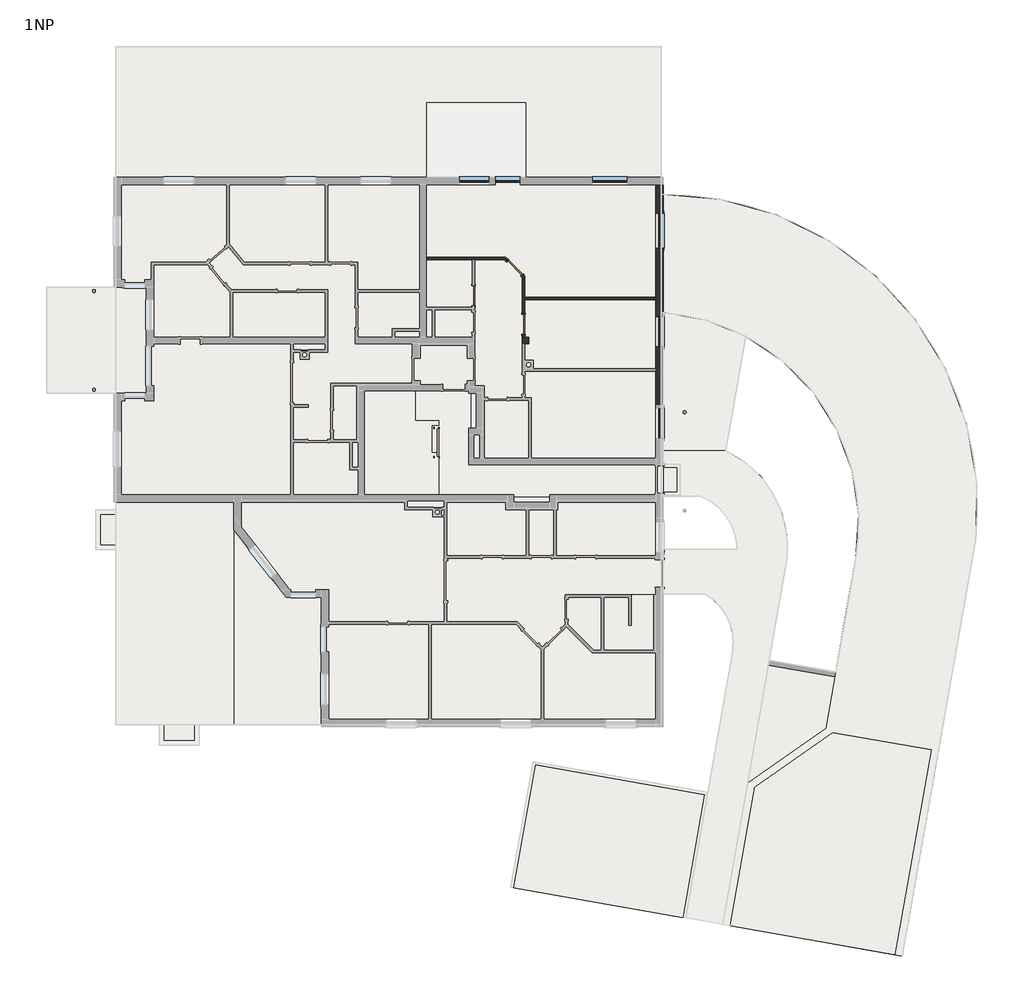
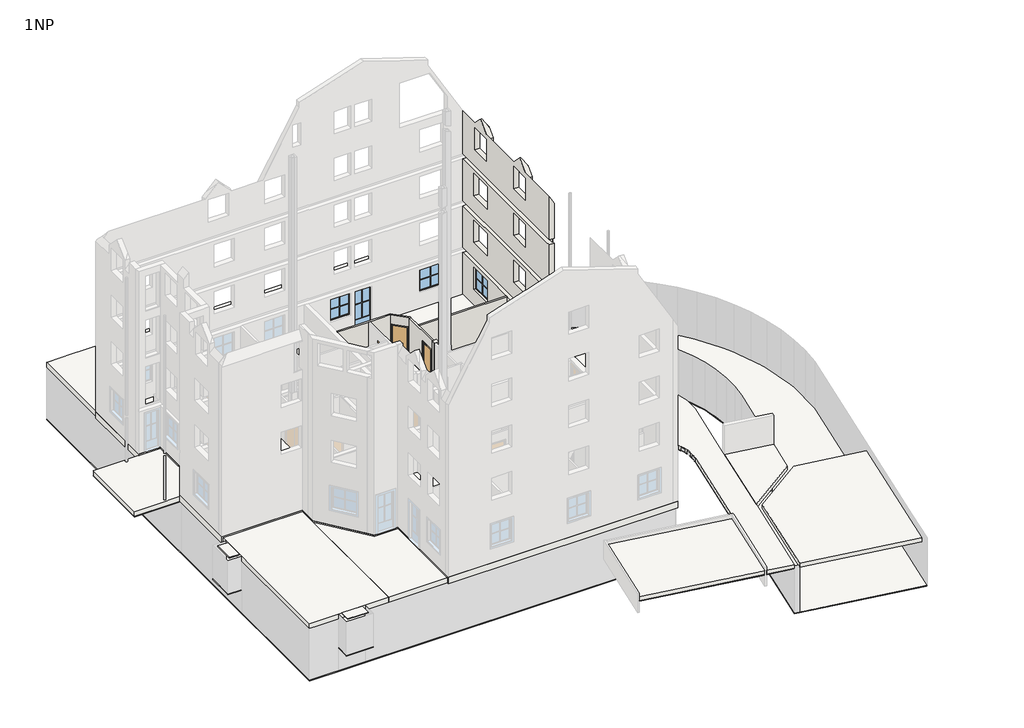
# One storey, part 6 of 7: 20 slabs, 6 walls, 6 windows, 3 doors.
"""IFC4 building model written with IfcOpenShell, lengths in millimetres."""

from ifc_helpers import new_model, si_unit, point, frame, frame_2d, origin, origin_with_axes, place, context, project, spatial, polyline, circle_curve, trimmed, segment, composite_curve, outline, extrude, faceted_brep, transform, mapped, element, save
from components import sd_800x2000_80f4ff25, standard_window_with_mullions_d3525f46, standard_window_with_mullions_80486b60, window_2_53780d15

model = new_model("IFC4")

# Units and contexts
model_context = context("Model", 3, world=origin())
ifc_project = project(units=[si_unit("LENGTHUNIT", "METRE", prefix="MILLI")], contexts=[model_context])

# Site, building, storey
site = spatial("IfcSite", under=ifc_project)
building = spatial("IfcBuilding", under=site)
storey = spatial("IfcBuildingStorey", under=building, Name="1NP", Elevation=0.0)

# Doors
placement = place(None, origin())
sd_800x2000_shape = sd_800x2000_80f4ff25(model_context)
element("IfcDoor", 1, ObjectType="JednokridlePlne : SD 800x2000", at=placement, inside=storey, context=model_context, shape_type="MappedRepresentation", body=[
    mapped(sd_800x2000_shape, transform((3762.8037835, 4988.8717038, 0.0), x_axis=(0.0, -1.0, 0.0), y_axis=(1.0, 0.0, 0.0), z_axis=(0.0, 0.0, 1.0))),
])
element("IfcDoor", 2, ObjectType="JednokridlePlne : SD 800x2000", at=placement, inside=storey, context=model_context, shape_type="MappedRepresentation", body=[
    mapped(sd_800x2000_shape, transform((3410.8458954, 7240.2976203, 0.0), x_axis=(0.7071067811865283, -0.7071067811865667, 0.0), y_axis=(0.7071067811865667, 0.7071067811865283, 0.0), z_axis=(0.0, 0.0, 1.0))),
])
element("IfcDoor", 3, ObjectType="JednokridlePlne : SD 800x2000", at=placement, inside=storey, context=model_context, shape_type="MappedRepresentation", body=[
    mapped(sd_800x2000_shape, transform((1762.8037835, 6127.9240135, 0.0), x_axis=(0.0, -1.0, 0.0), y_axis=(1.0, 0.0, 0.0), z_axis=(0.0, 0.0, 1.0))),
])

# Slabs
element("IfcSlab", 4, ObjectType="Asphalt Terrace", at=placement, inside=storey, context=model_context, shape_type="SweptSolid", body=[
    extrude(outline(composite_curve([segment(polyline([(9362.8037835, -70.8200492), (9362.8037835, 5459.9248888)]), True, "CONTINUOUS"), segment(trimmed(circle_curve(frame_2d((8700.9450523, -2993.1355038)), 8478.9319481), [point((9362.8037835, 5459.9248888))], [point((12661.1981728, 4504.1094704))], False, "CARTESIAN"), True, "CONTINUOUS"), segment(polyline([(12661.1981728, 4504.1094704), (11854.5146636, -70.8200492), (9362.8037835, -70.8200492)]), True, "CONTINUOUS")], self_intersect=False)), frame((0.0, 0.0, -270.0), z_axis=(0.0, 0.0, 1.0), x_axis=(1.0, 0.0, 0.0)), (0.0, 0.0, 1.0), 240.0),
])
element("IfcSlab", 5, ObjectType="Asphalt Terrace", at=placement, inside=storey, context=model_context, shape_type="SweptSolid", body=[
    extrude(outline(polyline([(18632.5053612, -20257.2831938), (12034.293416, -19093.8404034), (13012.1707018, -13548.0227304), (16140.0017147, -11357.8918769), (20079.2327267, -12052.4845876), (18632.5053612, -20257.2831938)])), frame((0.0, 0.0, -270.0), z_axis=(0.0, 0.0, 1.0), x_axis=(1.0, 0.0, 0.0)), (0.0, 0.0, 1.0), 240.0),
])
element("IfcSlab", 6, ObjectType="Asphalt Terrace", at=placement, inside=storey, context=model_context, shape_type="SweptSolid", body=[
    extrude(outline(polyline([(16227.9984371, -9131.2065199), (15866.1376178, -11183.4212053), (12738.306605, -13373.5520588), (13559.6689502, -8638.216614), (16227.9984371, -9131.2065199)])), frame((0.0, 0.0, -270.0), z_axis=(0.0, 0.0, 1.0), x_axis=(1.0, 0.0, 0.0)), (0.0, 0.0, 1.0), 240.0),
])
element("IfcSlab", 7, ObjectType="Asphalt Terrace", at=placement, inside=storey, context=model_context, shape_type="SweptSolid", body=[
    extrude(outline(polyline([(4222.6216392, -12641.6973909), (11017.7184639, -13839.8570811), (10149.4770917, -18763.8953703), (3354.380267, -17565.7356801), (4222.6216392, -12641.6973909)])), frame((0.0, 0.0, -270.0), z_axis=(0.0, 0.0, 1.0), x_axis=(1.0, 0.0, 0.0)), (0.0, 0.0, 1.0), 240.0),
])
element("IfcSlab", 8, ObjectType="Rollierung", at=placement, inside=storey, context=model_context, shape_type="SweptSolid", body=[
    extrude(outline(polyline([(9282.8088399, 16107.6290541), (9282.8088399, -11052.3709459), (-12557.1911601, -11052.3709459), (-12557.1911601, 16107.6290541), (9282.8088399, 16107.6290541)])), frame((0.0, 0.0, -3720.0), z_axis=(0.0, 0.0, 1.0), x_axis=(1.0, 0.0, 0.0)), (0.0, 0.0, 1.0), 40.0),
])
element("IfcSlab", 9, ObjectType="Rollierung", at=placement, inside=storey, context=model_context, shape_type="SweptSolid", body=[
    extrude(outline(polyline([(-9223.5911601, -11872.3709459), (-10823.5911601, -11872.3709459), (-10823.5911601, -11052.3709459), (-9223.5911601, -11052.3709459), (-9223.5911601, -11872.3709459)])), frame((0.0, 0.0, -2260.0), z_axis=(0.0, 0.0, 1.0), x_axis=(1.0, 0.0, 0.0)), (0.0, 0.0, 1.0), 40.0),
])
element("IfcSlab", 10, ObjectType="Rollierung", at=placement, inside=storey, context=model_context, shape_type="SweptSolid", body=[
    extrude(outline(polyline([(-12557.1911601, -2432.3709459), (-12557.1911601, -4032.3709459), (-13363.5911601, -4032.3709459), (-13363.5911601, -2432.3709459), (-12557.1911601, -2432.3709459)])), frame((0.0, 0.0, -2260.0), z_axis=(0.0, 0.0, 1.0), x_axis=(1.0, 0.0, 0.0)), (0.0, 0.0, 1.0), 40.0),
])
element("IfcSlab", 11, ObjectType="Rollierung", at=placement, inside=storey, context=model_context, shape_type="SweptSolid", body=[
    extrude(outline(polyline([(-12557.1911601, 6467.6290541), (-12557.1911601, 2217.6290541), (-15337.1962165, 2217.6290541), (-15337.1962165, 6467.6290541), (-12557.1911601, 6467.6290541)])), frame((0.0, 0.0, -449.0), z_axis=(0.0, 0.0, 1.0), x_axis=(1.0, 0.0, 0.0)), (0.0, 0.0, 1.0), 40.0),
])
element("IfcSlab", 12, ObjectType="Rollierung", at=placement, inside=storey, context=model_context, shape_type="SweptSolid", body=[
    extrude(outline(composite_curve([segment(polyline([(18927.9476871, -20309.3776471), (11738.8510901, -19041.7459501), (12738.306605, -13373.5520589), (13590.5523257, -8463.068288), (16262.7280726, -8934.2449693), (17064.3928143, -4387.7782943)]), True, "CONTINUOUS"), segment(trimmed(circle_curve(frame_2d((8700.9450523, -2993.1355038)), 8478.9319481), [point((17064.3928143, -4387.7782943))], [point((9282.8088399, 5465.8077821))], True, "CARTESIAN"), True, "CONTINUOUS"), segment(polyline([(9282.8088399, 5465.8077821), (9282.8088399, 10201.4215084)]), True, "CONTINUOUS"), segment(trimmed(circle_curve(frame_2d((9387.6836517, -2344.9016522)), 12546.7614777), [point((9282.8088399, 10201.4215084))], [point((21867.7334693, -3637.023987))], False, "CARTESIAN"), True, "CONTINUOUS"), segment(polyline([(21867.7334693, -3637.023987), (18927.9476871, -20309.3776471)]), True, "CONTINUOUS")], self_intersect=False)), frame((0.0, 0.0, -3140.0), z_axis=(0.0, 0.0, 1.0), x_axis=(1.0, 0.0, 0.0)), (0.0, 0.0, 1.0), 40.0),
])
element("IfcSlab", 13, ObjectType="Rollierung", at=placement, inside=storey, context=model_context, shape_type="SweptSolid", body=[
    extrude(outline(composite_curve([segment(polyline([(14317.3577769, -4341.1497463), (13590.5523257, -8463.068288), (12738.306605, -13373.5520589), (11738.8510901, -19041.7459501), (10248.0344041, -18781.2736836), (12113.1585693, -8203.6289143)]), True, "CONTINUOUS"), segment(trimmed(circle_curve(frame_2d((9933.4041595, -7751.3383061)), 2226.1841976), [point((12113.1585693, -8203.6289143))], [point((11031.0911178, -5814.5937635))], True, "CARTESIAN"), True, "CONTINUOUS"), segment(polyline([(11031.0911178, -5814.5937635), (9362.8037835, -5814.5937635), (9362.8037835, -4014.5937635), (12309.6434247, -4014.5937635)]), True, "CONTINUOUS"), segment(trimmed(circle_curve(frame_2d((10005.2079734, -4047.5225166)), 2304.6707036), [point((12309.6434247, -4014.5937635))], [point((10834.5744311, -1897.2531542))], True, "CARTESIAN"), True, "CONTINUOUS"), segment(polyline([(10834.5744311, -1897.2531542), (9362.8037835, -1897.2531542), (9362.8037835, -1852.3709459), (10036.4088399, -1852.3709459), (10036.4088399, -612.3709455), (9362.8037835, -612.370948), (9362.8037835, 5449.8942464)]), True, "CONTINUOUS"), segment(trimmed(circle_curve(frame_2d((8700.9450523, -2993.1355038)), 8468.9319481), [point((9362.8037835, 5449.8942464))], [point((12659.3738206, 4493.7630549))], False, "CARTESIAN"), True, "CONTINUOUS"), segment(polyline([(12659.3738206, 4493.7630549), (11854.5146636, -70.8200492)]), True, "CONTINUOUS"), segment(trimmed(circle_curve(frame_2d((10067.8637635, -3946.6090398)), 4267.7701132), [point((11854.5146636, -70.8200492))], [point((14317.3577769, -4341.1497463))], False, "CARTESIAN"), True, "CONTINUOUS")], self_intersect=False)), frame((0.0, 0.0, -310.0), z_axis=(0.0, 0.0, 1.0), x_axis=(1.0, 0.0, 0.0)), (0.0, 0.0, 1.0), 40.0),
])
element("IfcSlab", 14, ObjectType="Rollierung", at=placement, inside=storey, context=model_context, shape_type="SweptSolid", body=[
    extrude(outline(polyline([(4222.621572, -12641.697772), (11017.7185291, -13839.856702), (10149.5536288, -18763.9088659), (3354.380267, -17565.7356801), (4222.621572, -12641.697772)])), frame((0.0, 0.0, -310.0), z_axis=(0.0, 0.0, 1.0), x_axis=(1.0, 0.0, 0.0)), (0.0, 0.0, 1.0), 40.0),
])
element("IfcSlab", 15, ObjectType="STB240 + 160", at=placement, inside=storey, context=model_context, shape_type="Brep", body=[
    faceted_brep([(9362.8037835, 10867.6290541, -400.0), (9362.8037835, -11132.3709459, -400.0), (-4337.1962165, -11132.3709459, -400.0), (-4337.1962165, -11052.3709459, -400.0), (-4337.1962165, -5932.3709459, -400.0), (-5737.1962165, -5932.3709459, -400.0), (-7837.1962165, -3232.3709459, -400.0), (-7837.1962165, -2132.3709459, -400.0), (-12637.1962165, -2132.3709459, -400.0), (-12637.1962165, 2217.6290541, -400.0), (-12557.1911601, 2217.6290541, -400.0), (-12257.1911601, 2217.6290541, -400.0), (-11337.1962165, 2217.6290541, -400.0), (-11337.1962165, 6467.6290541, -400.0), (-12257.1911601, 6467.6290541, -400.0), (-12557.1911601, 6467.6290541, -400.0), (-12637.1962165, 6467.6290541, -400.0), (-12637.1962165, 10867.6290541, -400.0), (-582.1962165, 1117.6290541, -400.0), (-582.1962165, 2317.6290541, -400.0), (-2607.1962165, 2317.6290541, -400.0), (-2607.1962165, -1832.3709459, -400.0), (362.8037835, -1832.3709459, -400.0), (362.8037835, -162.3709459, -400.0), (87.8037835, -162.3709459, -400.0), (87.8037835, 947.6290541, -400.0), (192.8037835, 947.6290541, -400.0), (362.8037835, 947.6290541, -400.0), (362.8037835, 1117.6290541, -400.0), (-2857.1962165, 267.6290541, -400.0), (-3107.1962165, 267.6290541, -400.0), (-3107.1962165, -732.3709459, -400.0), (-2857.1962165, -732.3709459, -400.0), (592.8037835, -2082.3709459, -400.0), (-886.4381272, -2082.3709459, -400.0), (-886.4381272, -2332.3709459, -400.0), (592.8037835, -2332.3709459, -400.0), (2012.8037835, 567.6290541, -400.0), (1762.8088399, 567.6290541, -400.0), (1762.8088399, -382.3709459, -400.0), (2012.8037835, -382.3709459, -400.0), (112.8037835, 5567.6290541, -400.0), (-137.1962165, 5567.6290541, -400.0), (-137.1962165, 4467.6290541, -400.0), (112.8037835, 4467.6290541, -400.0), (-1387.1962165, 4467.6290541, -400.0), (-387.1962165, 4467.6290541, -400.0), (-387.1962165, 4717.6290541, -400.0), (-1387.1962165, 4717.6290541, -400.0), (-4187.1962165, 3967.6290541, -400.0), (-4187.1962165, 4217.6290541, -400.0), (-5457.1962165, 4217.6290541, -400.0), (-5457.1962165, 3967.6290541, -400.0), (4812.8037835, -1932.3709459, -400.0), (3362.8037835, -1932.3709459, -400.0), (3362.8037835, -2132.3709459, -400.0), (4812.8037835, -2132.3709459, -400.0), (1662.8088399, 2217.6290541, -400.0), (1662.8088399, 817.6290541, -400.0), (1862.8037835, 817.6290541, -400.0), (1862.8037835, 2217.6290541, -400.0), (6976.4088399, -5832.3709459, -400.0), (6976.4088399, -8052.3709459, -400.0), (8982.8088399, -8052.3709459, -400.0), (8982.8088399, -5832.3709459, -400.0), (9362.8037835, -11132.3709459, 0.0), (9362.8037835, 10567.6290541, 0.0), (9362.8037835, 10867.6290541, 0.0), (3637.8037835, 10867.6290541, 0.0), (2637.8037835, 10867.6290541, 0.0), (-12337.1962165, 10867.6290541, 0.0), (-12637.1962165, 10867.6290541, 0.0), (-12637.1962165, 6467.6290541, 0.0), (-11337.1962165, 6467.6290541, 0.0), (-11337.1962165, 2217.6290541, 0.0), (-12637.1962165, 2217.6290541, 0.0), (-12637.1962165, -2132.3709459, 0.0), (-7837.1962165, -2132.3709459, 0.0), (-7837.1962165, -3232.3709459, 0.0), (-5737.1962165, -5932.3709459, 0.0), (-4337.1962165, -5932.3709459, 0.0), (-4337.1962165, -7132.3709422, 0.0), (-4337.1962165, -8132.3709422, 0.0), (-4337.1962165, -10832.3709459, 0.0), (-4337.1962165, -11132.3709459, 0.0), (-582.1962165, 2317.6290541, 0.0), (-582.1962165, 1117.6290541, 0.0), (362.8037835, 1117.6290541, 0.0), (362.8037835, 947.6290541, 0.0), (192.8037835, 947.6290541, 0.0), (87.8037835, 947.6290541, 0.0), (87.8037835, -162.3709459, 0.0), (192.8037835, -162.3709459, 0.0), (362.8037835, -162.3709459, 0.0), (362.8037835, -299.8709459, 0.0), (362.8037835, -1832.3709459, 0.0), (-2607.1962165, -1832.3709459, 0.0), (-2607.1962165, 2317.6290541, 0.0), (-3107.1962165, 267.6290541, 0.0), (-2857.1962165, 267.6290541, 0.0), (-2857.1962165, -732.3709459, 0.0), (-3107.1962165, -732.3709459, 0.0), (-886.4381272, -2082.3709459, 0.0), (592.8037835, -2082.3709459, 0.0), (592.8037835, -2332.3709459, 0.0), (-886.4381272, -2332.3709459, 0.0), (1762.8088399, 567.6290541, 0.0), (2012.8037835, 567.6290541, 0.0), (2012.8037835, -382.3709459, 0.0), (1762.8088399, -382.3709459, 0.0), (-137.1962165, 5567.6290541, 0.0), (112.8037835, 5567.6290541, 0.0), (112.8037835, 4467.6290541, 0.0), (-137.1962165, 4467.6290541, 0.0), (-387.1962165, 4467.6290541, 0.0), (-1387.1962165, 4467.6290541, 0.0), (-1387.1962165, 4717.6290541, 0.0), (-387.1962165, 4717.6290541, 0.0), (-4187.1962165, 4217.6290541, 0.0), (-4187.1962165, 3967.6290541, 0.0), (-5457.1962165, 3967.6290541, 0.0), (-5457.1962165, 4217.6290541, 0.0), (3362.8037835, -1932.3709459, 0.0), (4812.8037835, -1932.3709459, 0.0), (4812.8037835, -2132.3709459, 0.0), (3362.8037835, -2132.3709459, 0.0), (1662.8088399, 817.6290541, 0.0), (1662.8088399, 2217.6290541, 0.0), (1762.8088399, 2217.6290541, 0.0), (1862.8037835, 2217.6290541, 0.0), (1862.8037835, 817.6290541, 0.0), (1762.8088399, 817.6290541, 0.0), (6976.4088399, -8052.3709459, 0.0), (6976.4088399, -5832.3709459, 0.0), (8982.8088399, -5832.3709459, 0.0), (8982.8088399, -8052.3709459, 0.0), (-4337.1962165, -5932.3709459, -91.0), (-5737.1962165, -5932.3709459, -91.0), (-7837.1962165, -3232.3709459, -91.0), (-12637.1962165, 2217.6290541, -100.0), (-11337.1962165, 2217.6290541, -100.0), (-11337.1962165, 6467.6290541, -100.0), (-12637.1962165, 6467.6290541, -100.0)], [[[0, 1, 2, 3, 4, 5, 6, 7, 8, 9, 10, 11, 12, 13, 14, 15, 16, 17], [18, 19, 20, 21, 22, 23, 24, 25, 26, 27, 28], [29, 30, 31, 32], [33, 34, 35, 36], [37, 38, 39, 40], [41, 42, 43, 44], [45, 46, 47, 48], [49, 50, 51, 52], [53, 54, 55, 56], [57, 58, 59, 60], [61, 62, 63, 64]], [[65, 66, 67, 68, 69, 70, 71, 72, 73, 74, 75, 76, 77, 78, 79, 80, 81, 82, 83, 84], [85, 86, 87, 88, 89, 90, 91, 92, 93, 94, 95, 96, 97], [98, 99, 100, 101], [102, 103, 104, 105], [106, 107, 108, 109], [110, 111, 112, 113], [114, 115, 116, 117], [118, 119, 120, 121], [122, 123, 124, 125], [126, 127, 128, 129, 130, 131], [132, 133, 134, 135]], [[1, 0, 67, 66, 65]], [[2, 1, 65, 84]], [[84, 83, 82, 81, 80, 136, 4, 3, 2]], [[5, 4, 136, 80, 79, 137]], [[6, 5, 137, 79, 78, 138]], [[7, 6, 138, 78, 77]], [[8, 7, 77, 76]], [[9, 8, 76, 75, 139]], [[12, 11, 10, 9, 139, 75, 74, 140]], [[13, 12, 140, 74, 73, 141]], [[16, 15, 14, 13, 141, 73, 72, 142]], [[17, 16, 142, 72, 71]], [[0, 17, 71, 70, 69, 68, 67]], [[19, 18, 86, 85]], [[20, 19, 85, 97]], [[21, 20, 97, 96]], [[22, 21, 96, 95]], [[23, 22, 95, 94, 93]], [[24, 23, 93, 92, 91]], [[25, 24, 91, 90]], [[27, 26, 25, 90, 89, 88]], [[28, 27, 88, 87]], [[18, 28, 87, 86]], [[30, 29, 99, 98]], [[31, 30, 98, 101]], [[32, 31, 101, 100]], [[29, 32, 100, 99]], [[34, 33, 103, 102]], [[35, 34, 102, 105]], [[36, 35, 105, 104]], [[33, 36, 104, 103]], [[38, 37, 107, 106]], [[39, 38, 106, 109]], [[40, 39, 109, 108]], [[37, 40, 108, 107]], [[42, 41, 111, 110]], [[43, 42, 110, 113]], [[44, 43, 113, 112]], [[41, 44, 112, 111]], [[46, 45, 115, 114]], [[47, 46, 114, 117]], [[48, 47, 117, 116]], [[45, 48, 116, 115]], [[50, 49, 119, 118]], [[51, 50, 118, 121]], [[52, 51, 121, 120]], [[49, 52, 120, 119]], [[54, 53, 123, 122]], [[55, 54, 122, 125]], [[56, 55, 125, 124]], [[53, 56, 124, 123]], [[58, 57, 127, 126]], [[59, 58, 126, 131, 130]], [[60, 59, 130, 129]], [[57, 60, 129, 128, 127]], [[62, 61, 133, 132]], [[63, 62, 132, 135]], [[64, 63, 135, 134]], [[61, 64, 134, 133]]]),
])
element("IfcSlab", 16, ObjectType="STB240 + 60 Grass", at=placement, inside=storey, context=model_context, shape_type="Brep", body=[
    faceted_brep([(-12557.1911601, 16107.6290541, -409.0), (-12257.1911601, 16107.6290541, -409.0), (9282.8088399, 16107.6290541, -409.0), (9282.8088399, 15807.6290541, -409.0), (9282.8088399, 10867.6290541, -409.0), (3862.8037835, 10867.6290541, -409.0), (3862.8037835, 13867.6290541, -409.0), (-137.1962165, 13867.6290541, -409.0), (-137.1962165, 10867.6290541, -409.0), (-12557.1911601, 10867.6290541, -409.0), (9282.8088399, 16107.6290541, -100.0), (-12557.1911601, 16107.6290541, -100.0), (-12557.1911601, 10867.6290541, -100.0), (-137.1962165, 10867.6290541, -100.0), (-137.1962165, 13867.6290541, -100.0), (3862.8037835, 13867.6290541, -100.0), (3862.8037835, 10867.6290541, -100.0), (9282.8088399, 10867.6290541, -100.0), (9282.8088399, 10867.6290541, -400.0), (3862.8037835, 10867.6290541, -400.0), (-137.1962165, 10867.6290541, -400.0), (-12557.1911601, 10867.6290541, -400.0)], [[[0, 1, 2, 3, 4, 5, 6, 7, 8, 9]], [[10, 11, 12, 13, 14, 15, 16, 17]], [[2, 1, 0, 11, 10]], [[4, 3, 2, 10, 17, 18]], [[5, 4, 18, 17, 16, 19]], [[6, 5, 19, 16, 15]], [[7, 6, 15, 14]], [[8, 7, 14, 13, 20]], [[9, 8, 20, 13, 12, 21]], [[0, 9, 21, 12, 11]]]),
])
element("IfcSlab", 17, ObjectType="STB240 + 60 Grass", at=placement, inside=storey, context=model_context, shape_type="Brep", body=[
    faceted_brep([(-7837.1962165, -11052.3709459, -400.0), (-12257.1911601, -11052.3709459, -400.0), (-12557.1911601, -11052.3709459, -400.0), (-12557.1911601, -2132.3709459, -400.0), (-7837.1962165, -2132.3709459, -400.0), (-7837.1962165, -3232.3709459, -400.0), (-12557.1911601, -11052.3709459, -91.0), (-7837.1962165, -11052.3709459, -91.0), (-7837.1962165, -3232.3709459, -91.0), (-7837.1962165, -2132.3709459, -91.0), (-12557.1911601, -2132.3709459, -91.0)], [[[0, 1, 2, 3, 4, 5]], [[6, 7, 8, 9, 10]], [[7, 0, 5, 4, 9, 8]], [[2, 1, 0, 7, 6]], [[3, 2, 6, 10]], [[4, 3, 10, 9]]]),
])
element("IfcSlab", 18, ObjectType="STB240 + 60 Terrace", at=placement, inside=storey, context=model_context, shape_type="SweptSolid", body=[
    extrude(outline(polyline([(-7837.1962165, -11052.3709459), (-7837.1962165, -3232.3709459), (-5737.1962165, -5932.3709459), (-4337.1962165, -5932.3709459), (-4337.1962165, -11052.3709459), (-7837.1962165, -11052.3709459)])), frame((0.0, 0.0, -400.0), z_axis=(0.0, 0.0, 1.0), x_axis=(1.0, 0.0, 0.0)), (0.0, 0.0, 1.0), 309.0),
])
element("IfcSlab", 19, ObjectType="STB240 + 60 Terrace", at=placement, inside=storey, context=model_context, shape_type="SweptSolid", body=[
    extrude(outline(polyline([(-15337.1962165, 2217.6290541), (-15337.1962165, 6467.6290541), (-11337.1962165, 6467.6290541), (-11337.1962165, 2217.6290541), (-15337.1962165, 2217.6290541)])), frame((0.0, 0.0, -409.0), z_axis=(0.0, 0.0, 1.0), x_axis=(1.0, 0.0, 0.0)), (0.0, 0.0, 1.0), 309.0),
])
element("IfcSlab", 20, ObjectType="Standards 400mm", at=placement, inside=storey, context=model_context, shape_type="SweptSolid", body=[
    extrude(outline(polyline([(9916.4088399, -1732.3709459), (9362.8037835, -1732.3709459), (9362.8037835, -732.3709459), (9916.4088399, -732.3709459), (9916.4088399, -1732.3709459)])), frame((0.0, 0.0, -70.0), z_axis=(0.0, 0.0, 1.0), x_axis=(1.0, 0.0, 0.0)), (0.0, 0.0, 1.0), 40.0),
])
element("IfcSlab", 21, ObjectType="Standards 400mm", at=placement, inside=storey, context=model_context, shape_type="SweptSolid", body=[
    extrude(outline(polyline([(-9423.5911601, -11672.3709459), (-10623.5911601, -11672.3709459), (-10623.5911601, -11052.3709459), (-9423.5911601, -11052.3709459), (-9423.5911601, -11672.3709459)])), frame((0.0, 0.0, -131.0), z_axis=(0.0, 0.0, 1.0), x_axis=(1.0, 0.0, 0.0)), (0.0, 0.0, 1.0), 40.0),
])
element("IfcSlab", 22, ObjectType="Standards 400mm", at=placement, inside=storey, context=model_context, shape_type="SweptSolid", body=[
    extrude(outline(polyline([(-12557.1911601, -2632.3709459), (-12557.1911601, -3832.3709459), (-13163.5911601, -3832.3709459), (-13163.5911601, -2632.3709459), (-12557.1911601, -2632.3709459)])), frame((0.0, 0.0, -131.0), z_axis=(0.0, 0.0, 1.0), x_axis=(1.0, 0.0, 0.0)), (0.0, 0.0, 1.0), 40.0),
])
element("IfcSlab", 23, ObjectType="Terrace", at=placement, inside=storey, context=model_context, shape_type="SweptSolid", body=[
    extrude(outline(composite_curve([segment(polyline([(10834.5744311, -1897.2531542), (9362.8037835, -1897.2531542), (9362.8037835, -1732.3709459), (9916.4088399, -1732.3709459), (9916.4088399, -732.3709459), (9362.8037835, -732.370948), (9362.8037835, -70.8200492), (11854.5146636, -70.8200492)]), True, "CONTINUOUS"), segment(trimmed(circle_curve(frame_2d((10067.8637635, -3946.6090398)), 4267.7701132), [point((11854.5146636, -70.8200492))], [point((14317.3577769, -4341.1497463))], False, "CARTESIAN"), True, "CONTINUOUS"), segment(polyline([(14317.3577769, -4341.1497463), (13590.5523257, -8463.068288), (13555.7944523, -8651.1968023), (12738.306605, -13373.5520589), (11738.8510901, -19041.7459501), (10248.0344041, -18781.2736836), (12113.1585693, -8203.6289143)]), True, "CONTINUOUS"), segment(trimmed(circle_curve(frame_2d((9933.4041595, -7751.3383061)), 2226.1841976), [point((12113.1585693, -8203.6289143))], [point((11031.0911178, -5814.5937635))], True, "CARTESIAN"), True, "CONTINUOUS"), segment(polyline([(11031.0911178, -5814.5937635), (9362.8037835, -5814.5937635), (9362.8037835, -4014.5937635), (12309.6434247, -4014.5937635)]), True, "CONTINUOUS"), segment(trimmed(circle_curve(frame_2d((10005.2079734, -4047.5225166)), 2304.6707036), [point((12309.6434247, -4014.5937635))], [point((10834.5744311, -1897.2531542))], True, "CARTESIAN"), True, "CONTINUOUS")], self_intersect=False)), frame((0.0, 0.0, -270.0), z_axis=(0.0, 0.0, 1.0), x_axis=(1.0, 0.0, 0.0)), (0.0, 0.0, 1.0), 240.0),
])

# Walls
element("IfcWall", 24, ObjectType="Exterior - 250+50mm", at=placement, inside=storey, context=model_context, shape_type="Brep", body=[
    faceted_brep([(9062.8037835, 10567.6290541, 0.0), (9062.8037835, 6067.6290541, 0.0), (9062.8037835, 5967.6290541, 0.0), (9062.8037835, 3216.2076978, 0.0), (9062.8037835, 3116.2076978, 0.0), (9062.8037835, 1767.6290541, 0.0), (9062.8037835, 1767.6290541, 2630.0), (9062.8037835, 3116.2076978, 2630.0), (9062.8037835, 3216.2076978, 2630.0), (9062.8037835, 5967.6290541, 2630.0), (9062.8037835, 6067.6290541, 2630.0), (9062.8037835, 10567.6290541, 2630.0), (9062.8037835, 9425.6927772, 1000.0), (9062.8037835, 9425.6927772, 2400.0), (9062.8037835, 8025.6927772, 2400.0), (9062.8037835, 8025.6927772, 1000.0), (9062.8037835, 5288.4530256, 1000.0), (9062.8037835, 5288.4530256, 2400.0), (9062.8037835, 4088.4530256, 2400.0), (9062.8037835, 4088.4530256, 1000.0), (9062.8037835, 9525.6927772, 11562.4355653), (9062.8037835, 10567.6290541, 11562.4355653), (9062.8037835, 10567.6290541, 8850.0), (9062.8037835, 6067.6290541, 8850.0), (9062.8037835, 5967.6290541, 8850.0), (9062.8037835, 3216.2076978, 8850.0), (9062.8037835, 3116.2076978, 8850.0), (9062.8037835, 1917.6290541, 8850.0), (9062.8037835, 1617.6290541, 8850.0), (9062.8037835, 1617.6290541, 11480.0), (9062.8037835, 1617.6290541, 11562.4355653), (9062.8037835, 3888.4530256, 11562.4355653), (9062.8037835, 4100.8885909, 11562.4355653), (9062.8037835, 4688.4530256, 12150.0), (9062.8037835, 4820.8885909, 12017.5644347), (9062.8037835, 5276.0174603, 11562.4355653), (9062.8037835, 5488.4530256, 11562.4355653), (9062.8037835, 7925.6927772, 11562.4355653), (9062.8037835, 8138.1283425, 11562.4355653), (9062.8037835, 8725.6927772, 12150.0), (9062.8037835, 8858.1283425, 12017.5644347), (9062.8037835, 9313.2572119, 11562.4355653), (9062.8037835, 9325.6927772, 9850.0), (9062.8037835, 9325.6927772, 11250.0), (9062.8037835, 8125.6927772, 11250.0), (9062.8037835, 8125.6927772, 9850.0), (9062.8037835, 5288.4530256, 9850.0), (9062.8037835, 5288.4530256, 11250.0), (9062.8037835, 4088.4530256, 11250.0), (9062.8037835, 4088.4530256, 9850.0), (9062.8037835, 10567.6290541, 2950.0), (9062.8037835, 6067.6290541, 2950.0), (9062.8037835, 5967.6290541, 2950.0), (9062.8037835, 3216.2076978, 2950.0), (9062.8037835, 3116.2076978, 2950.0), (9062.8037835, 1917.6290541, 2950.0), (9062.8037835, 1617.6290541, 2950.0), (9062.8037835, 1617.6290541, 5580.0), (9062.8037835, 1917.6290541, 5580.0), (9062.8037835, 3116.2076978, 5580.0), (9062.8037835, 3216.2076978, 5580.0), (9062.8037835, 5967.6290541, 5580.0), (9062.8037835, 6067.6290541, 5580.0), (9062.8037835, 10567.6290541, 5580.0), (9062.8037835, 9425.6927772, 3950.0), (9062.8037835, 9425.6927772, 5350.0), (9062.8037835, 8025.6927772, 5350.0), (9062.8037835, 8025.6927772, 3950.0), (9062.8037835, 5288.4530256, 3950.0), (9062.8037835, 5288.4530256, 5350.0), (9062.8037835, 4088.4530256, 5350.0), (9062.8037835, 4088.4530256, 3950.0), (9062.8037835, 10567.6290541, 5900.0), (9062.8037835, 6067.6290541, 5900.0), (9062.8037835, 5967.6290541, 5900.0), (9062.8037835, 3216.2076978, 5900.0), (9062.8037835, 3116.2076978, 5900.0), (9062.8037835, 1917.6290541, 5900.0), (9062.8037835, 1617.6290541, 5900.0), (9062.8037835, 1617.6290541, 8530.0), (9062.8037835, 1917.6290541, 8530.0), (9062.8037835, 3116.2076978, 8530.0), (9062.8037835, 3216.2076978, 8530.0), (9062.8037835, 5967.6290541, 8530.0), (9062.8037835, 6067.6290541, 8530.0), (9062.8037835, 10567.6290541, 8530.0), (9062.8037835, 9425.6927772, 6900.0), (9062.8037835, 9425.6927772, 8300.0), (9062.8037835, 8025.6927772, 8300.0), (9062.8037835, 8025.6927772, 6900.0), (9062.8037835, 5288.4530256, 6900.0), (9062.8037835, 5288.4530256, 8300.0), (9062.8037835, 4088.4530256, 8300.0), (9062.8037835, 4088.4530256, 6900.0), (9362.8037835, 1767.6290541, 0.0), (9362.8037835, 10567.6290541, 0.0), (9362.8037835, 10567.6290541, 11042.820323), (9362.8037835, 9525.6927772, 11042.820323), (9362.8037835, 9525.6927772, 11350.0), (9362.8037835, 9112.8724541, 11762.820323), (9362.8037835, 9112.8724541, 11800.0), (9362.8037835, 8338.5131002, 11800.0), (9362.8037835, 8338.5131002, 11762.820323), (9362.8037835, 7925.6927772, 11350.0), (9362.8037835, 7925.6927772, 11042.820323), (9362.8037835, 5488.4530256, 11042.820323), (9362.8037835, 5488.4530256, 11350.0), (9362.8037835, 5075.6327025, 11762.820323), (9362.8037835, 5075.6327025, 11800.0), (9362.8037835, 4301.2733486, 11800.0), (9362.8037835, 4301.2733486, 11762.820323), (9362.8037835, 3888.4530256, 11350.0), (9362.8037835, 3888.4530256, 11042.820323), (9362.8037835, 1617.6290541, 11042.820323), (9362.8037835, 1617.6290541, 8850.0), (9362.8037835, 1767.6290541, 8850.0), (9362.8037835, 1767.6290541, 8530.0), (9362.8037835, 1667.6290541, 8530.0), (9362.8037835, 1617.6290541, 8530.0), (9362.8037835, 1617.6290541, 5900.0), (9362.8037835, 1767.6290541, 5900.0), (9362.8037835, 1767.6290541, 5580.0), (9362.8037835, 1667.6290541, 5580.0), (9362.8037835, 1617.6290541, 5580.0), (9362.8037835, 1617.6290541, 2950.0), (9362.8037835, 1767.6290541, 2950.0), (9362.8037835, 1767.6290541, 2630.0), (9362.8037835, 9425.6927772, 2400.0), (9362.8037835, 9425.6927772, 1000.0), (9362.8037835, 8025.6927772, 1000.0), (9362.8037835, 8025.6927772, 2400.0), (9362.8037835, 5288.4530256, 2400.0), (9362.8037835, 5288.4530256, 1000.0), (9362.8037835, 4088.4530256, 1000.0), (9362.8037835, 4088.4530256, 2400.0), (9362.8037835, 9425.6927772, 5350.0), (9362.8037835, 9425.6927772, 3950.0), (9362.8037835, 8025.6927772, 3950.0), (9362.8037835, 8025.6927772, 5350.0), (9362.8037835, 5288.4530256, 5350.0), (9362.8037835, 5288.4530256, 3950.0), (9362.8037835, 4088.4530256, 3950.0), (9362.8037835, 4088.4530256, 5350.0), (9362.8037835, 9425.6927772, 8300.0), (9362.8037835, 9425.6927772, 6900.0), (9362.8037835, 8025.6927772, 6900.0), (9362.8037835, 8025.6927772, 8300.0), (9362.8037835, 5288.4530256, 8300.0), (9362.8037835, 5288.4530256, 6900.0), (9362.8037835, 4088.4530256, 6900.0), (9362.8037835, 4088.4530256, 8300.0), (9362.8037835, 9325.6927772, 11250.0), (9362.8037835, 9325.6927772, 9850.0), (9362.8037835, 8125.6927772, 9850.0), (9362.8037835, 8125.6927772, 11250.0), (9362.8037835, 5288.4530256, 11250.0), (9362.8037835, 5288.4530256, 9850.0), (9362.8037835, 4088.4530256, 9850.0), (9362.8037835, 4088.4530256, 11250.0), (9312.8037835, 1767.6290541, 2950.0), (9312.8037835, 1767.6290541, 2630.0), (9312.8037835, 10567.6290541, 2950.0), (9312.8037835, 10567.6290541, 2630.0), (9312.8037835, 10567.6290541, 5580.0), (9312.8037835, 10567.6290541, 5900.0), (9312.8037835, 10567.6290541, 8530.0), (9312.8037835, 10567.6290541, 8850.0), (9185.4535143, 7925.6927772, 11350.0), (9185.4535143, 5488.4530256, 11350.0), (9185.4535143, 3888.4530256, 11350.0), (9185.4535143, 9525.6927772, 11350.0), (9341.338087, 4338.4530256, 11800.0), (9341.338087, 5038.4530256, 11800.0), (9139.2654927, 4688.4530256, 11800.0), (9139.2654927, 4688.4530256, 12150.0), (9341.338087, 8375.6927772, 11800.0), (9341.338087, 9075.6927772, 11800.0), (9139.2654927, 8725.6927772, 11800.0), (9139.2654927, 8725.6927772, 12150.0), (9312.8037835, 1767.6290541, 5580.0), (9312.8037835, 1767.6290541, 5900.0), (9312.8037835, 1767.6290541, 8530.0), (9312.8037835, 1767.6290541, 8850.0)], [[[0, 1, 2, 3, 4, 5, 6, 7, 8, 9, 10, 11], [12, 13, 14, 15], [16, 17, 18, 19]], [[20, 21, 22, 23, 24, 25, 26, 27, 28, 29, 30, 31, 32, 33, 34, 35, 36, 37, 38, 39, 40, 41], [42, 43, 44, 45], [46, 47, 48, 49]], [[50, 51, 52, 53, 54, 55, 56, 57, 58, 59, 60, 61, 62, 63], [64, 65, 66, 67], [68, 69, 70, 71]], [[72, 73, 74, 75, 76, 77, 78, 79, 80, 81, 82, 83, 84, 85], [86, 87, 88, 89], [90, 91, 92, 93]], [[94, 95, 96, 97, 98, 99, 100, 101, 102, 103, 104, 105, 106, 107, 108, 109, 110, 111, 112, 113, 114, 115, 116, 117, 118, 119, 120, 121, 122, 123, 124, 125, 126], [127, 128, 129, 130], [131, 132, 133, 134], [135, 136, 137, 138], [139, 140, 141, 142], [143, 144, 145, 146], [147, 148, 149, 150], [151, 152, 153, 154], [155, 156, 157, 158]], [[5, 4, 3, 2, 1, 0, 95, 94]], [[5, 94, 126, 125, 159, 160, 6]], [[125, 124, 56, 55, 54, 53, 52, 51, 50, 161, 159]], [[56, 124, 123, 57]], [[113, 30, 29, 28, 114]], [[78, 119, 118, 79]], [[21, 96, 95, 0, 11, 162, 161, 50, 63, 163, 164, 72, 85, 165, 166, 22]], [[104, 103, 167]], [[106, 105, 168]], [[112, 111, 169]], [[98, 97, 170]], [[110, 109, 171]], [[171, 109, 108, 172, 173]], [[173, 172, 174]], [[102, 101, 175]], [[175, 101, 100, 176, 177]], [[177, 176, 178]], [[31, 30, 113, 112, 169, 32]], [[103, 102, 175, 178, 39, 38, 167]], [[99, 98, 170, 41, 40, 39, 178, 176]], [[111, 110, 171, 174, 33, 32, 169]], [[107, 106, 168, 35, 34, 33, 174, 172]], [[105, 104, 167, 38, 37, 36, 35, 168]], [[96, 21, 20, 41, 170, 97]], [[173, 174, 171]], [[108, 107, 172]], [[177, 178, 175]], [[100, 99, 176]], [[13, 12, 128, 127]], [[14, 13, 127, 130]], [[15, 14, 130, 129]], [[12, 15, 129, 128]], [[17, 16, 132, 131]], [[18, 17, 131, 134]], [[19, 18, 134, 133]], [[16, 19, 133, 132]], [[65, 64, 136, 135]], [[66, 65, 135, 138]], [[67, 66, 138, 137]], [[64, 67, 137, 136]], [[69, 68, 140, 139]], [[70, 69, 139, 142]], [[71, 70, 142, 141]], [[68, 71, 141, 140]], [[87, 86, 144, 143]], [[88, 87, 143, 146]], [[89, 88, 146, 145]], [[86, 89, 145, 144]], [[91, 90, 148, 147]], [[92, 91, 147, 150]], [[93, 92, 150, 149]], [[90, 93, 149, 148]], [[42, 152, 151, 43]], [[43, 151, 154, 44]], [[44, 154, 153, 45]], [[152, 42, 45, 153]], [[46, 156, 155, 47]], [[47, 155, 158, 48]], [[48, 158, 157, 49]], [[156, 46, 49, 157]], [[160, 162, 11, 10, 9, 8, 7, 6]], [[162, 160, 159, 161]], [[121, 179, 163, 63, 62, 61, 60, 59, 58, 57, 123, 122]], [[180, 120, 119, 78, 77, 76, 75, 74, 73, 72, 164]], [[179, 180, 164, 163]], [[179, 121, 120, 180]], [[116, 181, 165, 85, 84, 83, 82, 81, 80, 79, 118, 117]], [[182, 115, 114, 28, 27, 26, 25, 24, 23, 22, 166]], [[181, 182, 166, 165]], [[181, 116, 115, 182]]]),
])
element("IfcWall", 25, ObjectType="Interior - 100mm", at=placement, inside=storey, context=model_context, shape_type="Brep", body=[
    faceted_brep([(-137.1962165, 7567.6290541, 0.0), (1712.8037835, 7567.6290541, 0.0), (1812.8037835, 7567.6290541, 0.0), (3012.8037835, 7567.6290541, 0.0), (3154.2251397, 7567.6290541, 0.0), (3154.2251397, 7567.6290541, 2630.0), (3012.8037835, 7567.6290541, 2630.0), (1812.8037835, 7567.6290541, 2630.0), (1712.8037835, 7567.6290541, 2630.0), (-137.1962165, 7567.6290541, 2630.0), (-137.1962165, 7667.6290541, 0.0), (-137.1962165, 7667.6290541, 2630.0), (3054.2251397, 7667.6290541, 2630.0), (3054.2251397, 7667.6290541, 0.0)], [[[0, 1, 2, 3, 4, 5, 6, 7, 8, 9]], [[10, 11, 12, 13]], [[4, 3, 2, 1, 0, 10, 13]], [[5, 4, 13, 12]], [[0, 9, 11, 10]], [[9, 8, 7, 6, 5, 12, 11]]]),
])
element("IfcWall", 26, ObjectType="Interior - 100mm", at=placement, inside=storey, context=model_context, shape_type="Brep", body=[
    faceted_brep([(3812.8037835, 6767.6290541, 0.0), (3812.8037835, 6767.6290541, 2630.0), (3712.8037835, 6867.6290541, 2630.0), (3012.8037835, 7567.6290541, 2630.0), (3012.8037835, 7567.6290541, 0.0), (3092.6478438, 7487.7849937, 0.0), (3092.6478438, 7487.7849937, 2000.0), (3658.3332688, 6922.0995688, 2000.0), (3658.3332688, 6922.0995688, 0.0), (3712.8037835, 6867.6290541, 0.0), (3812.8037835, 6909.0504103, 2630.0), (3812.8037835, 6909.0504103, 0.0), (3729.0439469, 6992.8102469, 0.0), (3729.0439469, 6992.8102469, 2000.0), (3163.3585219, 7558.4956719, 2000.0), (3163.3585219, 7558.4956719, 0.0), (3154.2251397, 7567.6290541, 0.0), (3154.2251397, 7567.6290541, 2630.0)], [[[0, 1, 2, 3, 4, 5, 6, 7, 8, 9]], [[10, 11, 12, 13, 14, 15, 16, 17]], [[11, 0, 9, 8, 12]], [[4, 16, 15, 5]], [[1, 0, 11, 10]], [[4, 3, 17, 16]], [[3, 2, 1, 10, 17]], [[7, 13, 12, 8]], [[13, 7, 6, 14]], [[14, 6, 5, 15]]]),
])
element("IfcWall", 27, ObjectType="Interior - 100mm", at=placement, inside=storey, context=model_context, shape_type="Brep", body=[
    faceted_brep([(3712.8037835, 4588.8717038, 2000.0), (3712.8037835, 4588.8717038, 0.0), (3712.8037835, 4467.6290541, 0.0), (3712.8037835, 4467.6290541, 2630.0), (3712.8037835, 6867.6290541, 2630.0), (3712.8037835, 6867.6290541, 0.0), (3712.8037835, 5388.8717038, 0.0), (3712.8037835, 5388.8717038, 2000.0), (3812.8037835, 4467.6290541, 0.0), (3812.8037835, 4588.8717038, 0.0), (3812.8037835, 4588.8717038, 2000.0), (3812.8037835, 5388.8717038, 2000.0), (3812.8037835, 5388.8717038, 0.0), (3812.8037835, 5967.6290541, 0.0), (3812.8037835, 6067.6290541, 0.0), (3812.8037835, 6767.6290541, 0.0), (3812.8037835, 6767.6290541, 2630.0), (3812.8037835, 6067.6290541, 2630.0), (3812.8037835, 5967.6290541, 2630.0), (3812.8037835, 4467.6290541, 2630.0)], [[[0, 1, 2, 3, 4, 5, 6, 7]], [[8, 9, 10, 11, 12, 13, 14, 15, 16, 17, 18, 19]], [[2, 1, 9, 8]], [[6, 5, 15, 14, 13, 12]], [[5, 4, 16, 15]], [[3, 2, 8, 19]], [[4, 3, 19, 18, 17, 16]], [[10, 9, 1, 0]], [[11, 10, 0, 7]], [[12, 11, 7, 6]]]),
])
element("IfcWall", 28, ObjectType="Interior - 100mm", at=placement, inside=storey, context=model_context, shape_type="SweptSolid", body=[
    extrude(outline(polyline([(9062.8037835, 5967.6290541), (3812.8037835, 5967.6290541), (3812.8037835, 6067.6290541), (9062.8037835, 6067.6290541), (9062.8037835, 5967.6290541)])), origin_with_axes(), (0.0, 0.0, 1.0), 2630.0),
])
element("IfcWall", 29, ObjectType="Interior - 250mm", at=placement, inside=storey, context=model_context, shape_type="Brep", body=[
    faceted_brep([(3712.8037835, 4217.6290541, 0.0), (3812.8037835, 4217.6290541, 0.0), (3962.8037835, 4217.6290541, 0.0), (3962.8037835, 4217.6290541, 2630.0), (3812.8037835, 4217.6290541, 2630.0), (3712.8037835, 4217.6290541, 2630.0), (3712.8037835, 4467.6290541, 0.0), (3712.8037835, 4467.6290541, 2630.0), (3812.8037835, 4467.6290541, 2630.0), (3962.8037835, 4467.6290541, 2630.0), (3962.8037835, 4467.6290541, 0.0), (3812.8037835, 4467.6290541, 0.0)], [[[0, 1, 2, 3, 4, 5]], [[6, 7, 8, 9, 10, 11]], [[2, 1, 0, 6, 11, 10]], [[3, 2, 10, 9]], [[0, 5, 7, 6]], [[5, 4, 3, 9, 8, 7]]]),
])

# Windows
standard_window_with_mullions_shape = standard_window_with_mullions_d3525f46(model_context)
element("IfcWindow", 30, ObjectType="Standard Window with mullions : 1400/1400", at=placement, inside=storey, context=model_context, shape_type="MappedRepresentation", body=[
    mapped(standard_window_with_mullions_shape, transform((7214.6462462, 10717.6290541, 0.0), x_axis=(1.0, 0.0, 0.0), y_axis=(0.0, 1.0, 0.0), z_axis=(0.0, 0.0, 1.0))),
])
element("IfcWindow", 31, ObjectType="Standard Window with mullions : 1400/1400", at=placement, inside=storey, context=model_context, shape_type="MappedRepresentation", body=[
    mapped(standard_window_with_mullions_shape, transform((9212.8037835, 8725.6927772, 0.0), x_axis=(0.0, -1.0, 0.0), y_axis=(1.0, 0.0, 0.0), z_axis=(0.0, 0.0, 1.0))),
])
standard_window_with_mullions_2_shape = standard_window_with_mullions_80486b60(model_context)
element("IfcWindow", 32, ObjectType="Standard Window with mullions : 1200/1400", at=placement, inside=storey, context=model_context, shape_type="MappedRepresentation", body=[
    mapped(standard_window_with_mullions_2_shape, transform((1787.8037835, 10717.6290541, 0.0), x_axis=(1.0, 0.0, 0.0), y_axis=(0.0, 1.0, 0.0), z_axis=(0.0, 0.0, 1.0))),
])
element("IfcWindow", 33, ObjectType="Standard Window with mullions : 1200/1400", at=placement, inside=storey, context=model_context, shape_type="MappedRepresentation", body=[
    mapped(standard_window_with_mullions_2_shape, transform((9212.8037835, 4688.4530256, 0.0), x_axis=(0.0, -1.0, 0.0), y_axis=(1.0, 0.0, 0.0), z_axis=(0.0, 0.0, 1.0))),
])
element("IfcWindow", 34, ObjectType="Standard Window with mullions : 1200/1400", at=placement, inside=storey, context=model_context, shape_type="MappedRepresentation", body=[
    mapped(standard_window_with_mullions_2_shape, transform((9212.8037835, 1017.6290519, 0.0), x_axis=(0.0, -1.0, 0.0), y_axis=(1.0, 0.0, 0.0), z_axis=(0.0, 0.0, 1.0))),
])
window_2_shape = window_2_53780d15(model_context)
element("IfcWindow", 35, ObjectType="Window 2 : 1000/2400", at=placement, inside=storey, context=model_context, shape_type="MappedRepresentation", body=[
    mapped(window_2_shape, transform((3137.8037835, 10717.6290541, 0.0), x_axis=(1.0, 0.0, 0.0), y_axis=(0.0, 1.0, 0.0), z_axis=(0.0, 0.0, 1.0))),
])

save(model, "model.ifc")
